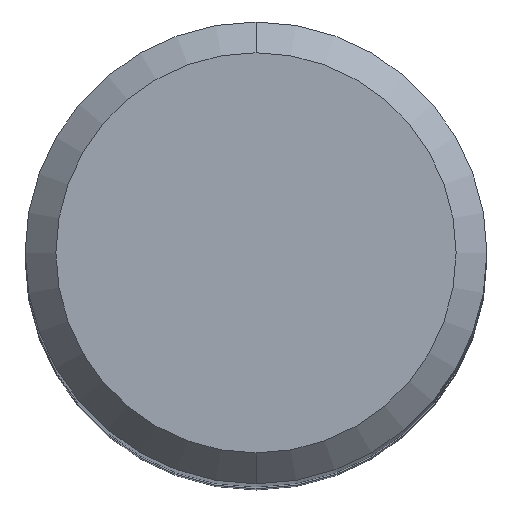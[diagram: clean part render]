
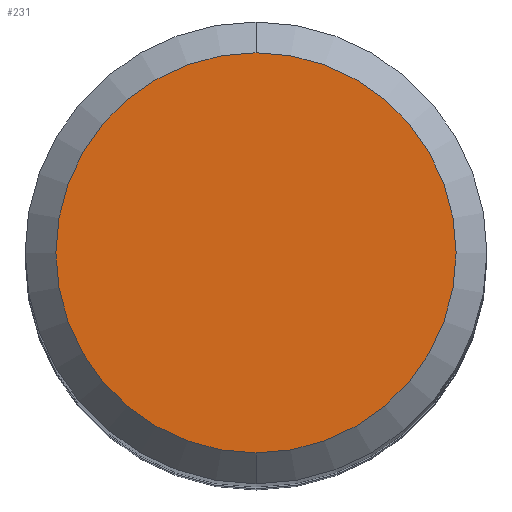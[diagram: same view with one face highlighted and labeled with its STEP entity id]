
A CAD part, top view. The second image highlights one B-rep face of the part: STEP entity #231.
In plain terms, the highlighted free-form (B-spline) face has degree [1, 1] with [2, 2] control points.
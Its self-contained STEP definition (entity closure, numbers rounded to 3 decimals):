
#38=CARTESIAN_POINT('',(0.,0.,0.));
#39=DIRECTION('',(0.,0.,1.));
#40=DIRECTION('',(0.,1.,0.));
#41=AXIS2_PLACEMENT_3D('',#38,#39,#40);
#43=CARTESIAN_POINT('',(0.,0.,0.));
#44=DIRECTION('',(0.,0.,-1.));
#45=DIRECTION('',(0.,1.,0.));
#46=AXIS2_PLACEMENT_3D('',#43,#44,#45);
#138=CARTESIAN_POINT('',(0.,5.2,0.));
#139=VERTEX_POINT('',#138);
#140=CARTESIAN_POINT('',(0.,-5.2,0.));
#141=VERTEX_POINT('',#140);
#222=CARTESIAN_POINT('',(5.409,5.408,0.));
#223=CARTESIAN_POINT('',(-5.409,5.408,0.));
#224=CARTESIAN_POINT('',(5.409,-5.408,0.));
#225=CARTESIAN_POINT('',(-5.409,-5.408,0.));
#226=B_SPLINE_SURFACE_WITH_KNOTS('',1,1,((#222,#223),(#224,#225)),.UNSPECIFIED.,
.F.,.F.,.F.,(2,2),(2,2),(-5.408,5.408),(-5.409,5.409),
.UNSPECIFIED.);
#227=ORIENTED_EDGE('',*,*,#207,.F.);
#228=ORIENTED_EDGE('',*,*,#175,.T.);
#229=EDGE_LOOP('',(#227,#228));
#230=FACE_OUTER_BOUND('',#229,.F.);
#42=CIRCLE('',#41,5.2);
#47=CIRCLE('',#46,5.2);
#175=EDGE_CURVE('',#139,#141,#47,.T.);
#207=EDGE_CURVE('',#139,#141,#42,.T.);
#231=ADVANCED_FACE('',(#230),#226,.F.);
